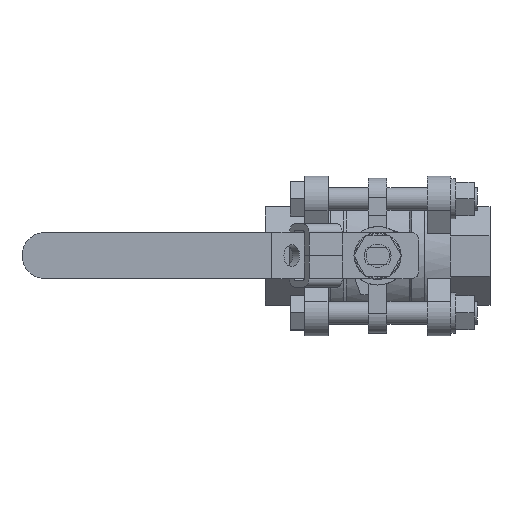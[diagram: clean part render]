
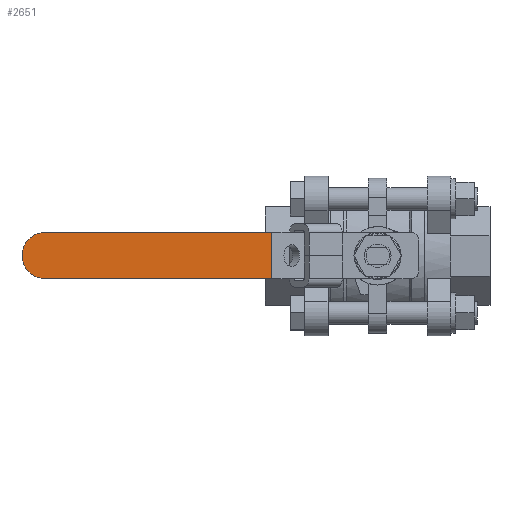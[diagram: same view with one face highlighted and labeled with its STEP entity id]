
A CAD part, top view. The second image highlights one B-rep face of the part: STEP entity #2651.
In plain terms, the highlighted planar face has unit normal (0, 0, 1).
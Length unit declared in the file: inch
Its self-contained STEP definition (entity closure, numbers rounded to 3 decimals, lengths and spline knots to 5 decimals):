
#2584=CARTESIAN_POINT('',(-3.54752,0.37516,3.67365));
#2585=VERTEX_POINT('',#2584);
#2586=CARTESIAN_POINT('',(-3.54752,-0.36984,3.67365));
#2587=VERTEX_POINT('',#2586);
#2588=CARTESIAN_POINT('',(-3.54752,0.00266,3.67365));
#2589=DIRECTION('',(0.0,0.0,1.0));
#2590=DIRECTION('',(-1.0,0.0,0.0));
#2591=AXIS2_PLACEMENT_3D('',#2588,#2589,#2590);
#2592=CIRCLE('',#2591,0.3725);
#2593=EDGE_CURVE('',#2585,#2587,#2592,.T.);
#2621=CARTESIAN_POINT('',(0.10736,-0.36984,3.67365));
#2622=DIRECTION('',(0.0,0.0,1.0));
#2623=DIRECTION('',(1.0,0.0,0.0));
#2624=AXIS2_PLACEMENT_3D('',#2621,#2622,#2623);
#2625=PLANE('',#2624);
#2626=ORIENTED_EDGE('',*,*,#2593,.T.);
#2627=CARTESIAN_POINT('',(0.10736,-0.36984,3.67365));
#2628=VERTEX_POINT('',#2627);
#2629=CARTESIAN_POINT('',(-3.54752,-0.36984,3.67365));
#2630=DIRECTION('',(1.0,0.0,0.0));
#2631=VECTOR('',#2630,3.65487);
#2632=LINE('',#2629,#2631);
#2633=EDGE_CURVE('',#2587,#2628,#2632,.T.);
#2634=ORIENTED_EDGE('',*,*,#2633,.T.);
#2635=CARTESIAN_POINT('',(0.10736,0.37516,3.67365));
#2636=VERTEX_POINT('',#2635);
#2637=CARTESIAN_POINT('',(0.10736,-0.36984,3.67365));
#2638=DIRECTION('',(0.0,1.0,0.0));
#2639=VECTOR('',#2638,0.745);
#2640=LINE('',#2637,#2639);
#2641=EDGE_CURVE('',#2628,#2636,#2640,.T.);
#2642=ORIENTED_EDGE('',*,*,#2641,.T.);
#2643=CARTESIAN_POINT('',(0.10736,0.37516,3.67365));
#2644=DIRECTION('',(-1.0,0.0,0.0));
#2645=VECTOR('',#2644,3.65487);
#2646=LINE('',#2643,#2645);
#2647=EDGE_CURVE('',#2636,#2585,#2646,.T.);
#2648=ORIENTED_EDGE('',*,*,#2647,.T.);
#2649=EDGE_LOOP('',(#2626,#2634,#2642,#2648));
#2650=FACE_OUTER_BOUND('',#2649,.T.);
#2651=ADVANCED_FACE('',(#2650),#2625,.T.);
